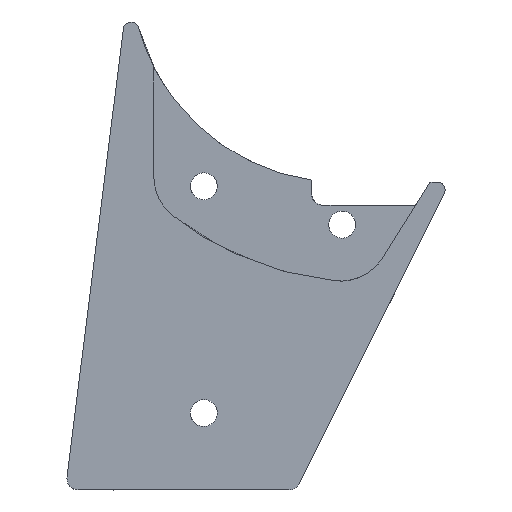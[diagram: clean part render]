
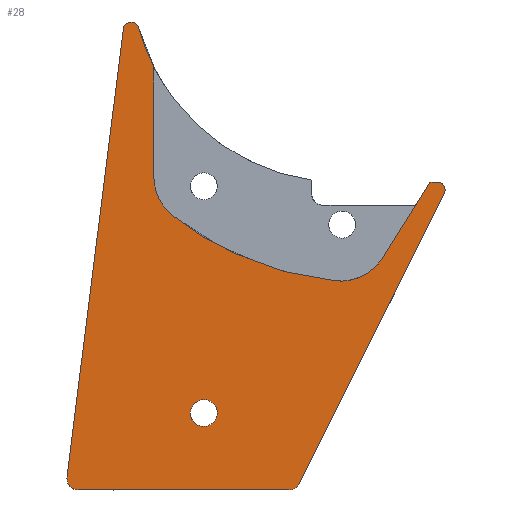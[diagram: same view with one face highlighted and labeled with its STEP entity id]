
A CAD part, top view. The second image highlights one B-rep face of the part: STEP entity #28.
In plain terms, the highlighted planar face has unit normal (0, 0, 1).
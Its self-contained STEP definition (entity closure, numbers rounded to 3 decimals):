
#15=FACE_BOUND('',#136,.T.);
#28=ADVANCED_FACE('',(#81,#15),#849,.T.);
#81=FACE_OUTER_BOUND('',#135,.T.);
#135=EDGE_LOOP('',(#213,#214,#215,#216,#217,#218,#219,#220,#221,#222,#223,
#224,#225,#226));
#136=EDGE_LOOP('',(#227,#228));
#213=ORIENTED_EDGE('',*,*,#544,.T.);
#214=ORIENTED_EDGE('',*,*,#527,.T.);
#215=ORIENTED_EDGE('',*,*,#534,.T.);
#216=ORIENTED_EDGE('',*,*,#484,.T.);
#217=ORIENTED_EDGE('',*,*,#530,.T.);
#218=ORIENTED_EDGE('',*,*,#501,.T.);
#219=ORIENTED_EDGE('',*,*,#485,.T.);
#220=ORIENTED_EDGE('',*,*,#496,.T.);
#221=ORIENTED_EDGE('',*,*,#486,.T.);
#222=ORIENTED_EDGE('',*,*,#494,.T.);
#223=ORIENTED_EDGE('',*,*,#508,.T.);
#224=ORIENTED_EDGE('',*,*,#482,.F.);
#225=ORIENTED_EDGE('',*,*,#543,.T.);
#226=ORIENTED_EDGE('',*,*,#487,.T.);
#227=ORIENTED_EDGE('',*,*,#599,.F.);
#228=ORIENTED_EDGE('',*,*,#471,.F.);
#471=EDGE_CURVE('',#750,#833,#700,.T.);
#482=EDGE_CURVE('',#758,#759,#615,.T.);
#484=EDGE_CURVE('',#764,#765,#617,.T.);
#485=EDGE_CURVE('',#767,#768,#706,.T.);
#486=EDGE_CURVE('',#769,#770,#618,.T.);
#487=EDGE_CURVE('',#772,#761,#619,.T.);
#494=EDGE_CURVE('',#770,#771,#708,.T.);
#496=EDGE_CURVE('',#768,#769,#710,.T.);
#501=EDGE_CURVE('',#766,#767,#713,.T.);
#508=EDGE_CURVE('',#771,#759,#715,.T.);
#527=EDGE_CURVE('',#762,#763,#649,.T.);
#530=EDGE_CURVE('',#765,#766,#652,.T.);
#534=EDGE_CURVE('',#763,#764,#717,.T.);
#543=EDGE_CURVE('',#758,#772,#718,.T.);
#544=EDGE_CURVE('',#761,#762,#719,.T.);
#599=EDGE_CURVE('',#833,#750,#740,.T.);
#615=B_SPLINE_CURVE_WITH_KNOTS('',2,(#1941,#1942,#1943),.UNSPECIFIED.,.F.,
 .F.,(3,3),(93.535,152.286),.UNSPECIFIED.);
#617=B_SPLINE_CURVE_WITH_KNOTS('',1,(#1946,#1947),.UNSPECIFIED.,.F.,.F.,
(2,2),(-215.446,-214.466),.UNSPECIFIED.);
#618=B_SPLINE_CURVE_WITH_KNOTS('',1,(#1951,#1952),.UNSPECIFIED.,.F.,.F.,
(2,2),(47.762,60.981),.UNSPECIFIED.);
#619=B_SPLINE_CURVE_WITH_KNOTS('',1,(#1953,#1954),.UNSPECIFIED.,.F.,.F.,
(2,2),(-290.085,-262.713),.UNSPECIFIED.);
#649=B_SPLINE_CURVE_WITH_KNOTS('',2,(#2112,#2113,#2114),.UNSPECIFIED.,.F.,
 .F.,(3,3),(-260.858,-218.682),.UNSPECIFIED.);
#652=B_SPLINE_CURVE_WITH_KNOTS('',2,(#2138,#2139,#2140),.UNSPECIFIED.,.F.,
 .F.,(3,3),(112.35,125.368),.UNSPECIFIED.);
#700=(
BOUNDED_CURVE()
B_SPLINE_CURVE(2,(#1888,#1889,#1890,#1891,#1892),.UNSPECIFIED.,.F.,.F.)
B_SPLINE_CURVE_WITH_KNOTS((3,2,3),(0.,2.749,5.498),
 .UNSPECIFIED.)
CURVE()
GEOMETRIC_REPRESENTATION_ITEM()
RATIONAL_B_SPLINE_CURVE((1.,0.707,1.,0.707,1.))
REPRESENTATION_ITEM('')
);
#706=(
BOUNDED_CURVE()
B_SPLINE_CURVE(2,(#1948,#1949,#1950),.UNSPECIFIED.,.F.,.F.)
B_SPLINE_CURVE_WITH_KNOTS((3,3),(28.091,35.698),
 .UNSPECIFIED.)
CURVE()
GEOMETRIC_REPRESENTATION_ITEM()
RATIONAL_B_SPLINE_CURVE((1.,0.96,1.))
REPRESENTATION_ITEM('')
);
#708=(
BOUNDED_CURVE()
B_SPLINE_CURVE(2,(#1970,#1971,#1972),.UNSPECIFIED.,.F.,.F.)
B_SPLINE_CURVE_WITH_KNOTS((3,3),(-173.213,-167.768),
 .UNSPECIFIED.)
CURVE()
GEOMETRIC_REPRESENTATION_ITEM()
RATIONAL_B_SPLINE_CURVE((1.,0.995,1.))
REPRESENTATION_ITEM('')
);
#710=(
BOUNDED_CURVE()
B_SPLINE_CURVE(2,(#1976,#1977,#1978),.UNSPECIFIED.,.F.,.F.)
B_SPLINE_CURVE_WITH_KNOTS((3,3),(35.698,47.762),
 .UNSPECIFIED.)
CURVE()
GEOMETRIC_REPRESENTATION_ITEM()
RATIONAL_B_SPLINE_CURVE((1.,0.899,1.))
REPRESENTATION_ITEM('')
);
#713=(
BOUNDED_CURVE()
B_SPLINE_CURVE(2,(#1989,#1990,#1991),.UNSPECIFIED.,.F.,.F.)
B_SPLINE_CURVE_WITH_KNOTS((3,3),(13.33,28.091),
 .UNSPECIFIED.)
CURVE()
GEOMETRIC_REPRESENTATION_ITEM()
RATIONAL_B_SPLINE_CURVE((1.,0.851,1.))
REPRESENTATION_ITEM('')
);
#715=(
BOUNDED_CURVE()
B_SPLINE_CURVE(2,(#2019,#2020,#2021,#2022,#2023),.UNSPECIFIED.,.F.,.F.)
B_SPLINE_CURVE_WITH_KNOTS((3,2,3),(0.,1.372,2.745),
 .UNSPECIFIED.)
CURVE()
GEOMETRIC_REPRESENTATION_ITEM()
RATIONAL_B_SPLINE_CURVE((1.,0.774,1.,0.774,1.))
REPRESENTATION_ITEM('')
);
#717=(
BOUNDED_CURVE()
B_SPLINE_CURVE(2,(#2148,#2149,#2150),.UNSPECIFIED.,.F.,.F.)
B_SPLINE_CURVE_WITH_KNOTS((3,3),(-2.034,0.),.UNSPECIFIED.)
CURVE()
GEOMETRIC_REPRESENTATION_ITEM()
RATIONAL_B_SPLINE_CURVE((1.,0.526,1.))
REPRESENTATION_ITEM('')
);
#718=(
BOUNDED_CURVE()
B_SPLINE_CURVE(2,(#2192,#2193,#2194),.UNSPECIFIED.,.F.,.F.)
B_SPLINE_CURVE_WITH_KNOTS((3,3),(-2.544,0.),.UNSPECIFIED.)
CURVE()
GEOMETRIC_REPRESENTATION_ITEM()
RATIONAL_B_SPLINE_CURVE((1.,0.661,1.))
REPRESENTATION_ITEM('')
);
#719=(
BOUNDED_CURVE()
B_SPLINE_CURVE(2,(#2195,#2196,#2197),.UNSPECIFIED.,.F.,.F.)
B_SPLINE_CURVE_WITH_KNOTS((3,3),(0.,1.661),.UNSPECIFIED.)
CURVE()
GEOMETRIC_REPRESENTATION_ITEM()
RATIONAL_B_SPLINE_CURVE((1.,0.851,1.))
REPRESENTATION_ITEM('')
);
#740=(
BOUNDED_CURVE()
B_SPLINE_CURVE(2,(#2481,#2482,#2483,#2484,#2485),.UNSPECIFIED.,.F.,.F.)
B_SPLINE_CURVE_WITH_KNOTS((3,2,3),(5.498,8.247,10.996),
 .UNSPECIFIED.)
CURVE()
GEOMETRIC_REPRESENTATION_ITEM()
RATIONAL_B_SPLINE_CURVE((1.,0.707,1.,0.707,1.))
REPRESENTATION_ITEM('')
);
#750=VERTEX_POINT('',#1791);
#758=VERTEX_POINT('',#1799);
#759=VERTEX_POINT('',#1800);
#761=VERTEX_POINT('',#1802);
#762=VERTEX_POINT('',#1803);
#763=VERTEX_POINT('',#1804);
#764=VERTEX_POINT('',#1805);
#765=VERTEX_POINT('',#1806);
#766=VERTEX_POINT('',#1807);
#767=VERTEX_POINT('',#1808);
#768=VERTEX_POINT('',#1809);
#769=VERTEX_POINT('',#1810);
#770=VERTEX_POINT('',#1811);
#771=VERTEX_POINT('',#1812);
#772=VERTEX_POINT('',#1813);
#833=VERTEX_POINT('',#1874);
#849=PLANE('',#982);
#982=AXIS2_PLACEMENT_3D('',#1068,#1002,$);
#1002=DIRECTION('',(0.,0.,1.));
#1068=CARTESIAN_POINT('',(-90.25,8.437,0.));
#1791=CARTESIAN_POINT('',(-64.25,-57.5,0.));
#1799=CARTESIAN_POINT('',(-83.788,-65.813,0.));
#1800=CARTESIAN_POINT('',(-76.447,-7.522,0.));
#1802=CARTESIAN_POINT('',(-54.927,-67.5,0.));
#1803=CARTESIAN_POINT('',(-53.585,-66.671,0.));
#1804=CARTESIAN_POINT('',(-34.724,-28.947,0.));
#1805=CARTESIAN_POINT('',(-35.618,-27.5,0.));
#1806=CARTESIAN_POINT('',(-36.598,-27.5,0.));
#1807=CARTESIAN_POINT('',(-42.717,-37.291,0.));
#1808=CARTESIAN_POINT('',(-48.847,-40.317,0.));
#1809=CARTESIAN_POINT('',(-70.015,-31.851,0.));
#1810=CARTESIAN_POINT('',(-72.5,-26.739,0.));
#1811=CARTESIAN_POINT('',(-72.5,-12.49,0.));
#1812=CARTESIAN_POINT('',(-74.492,-7.378,0.));
#1813=CARTESIAN_POINT('',(-82.299,-67.5,0.));
#1874=CARTESIAN_POINT('',(-67.75,-57.5,0.));
#1888=CARTESIAN_POINT('',(-64.25,-57.5,0.));
#1889=CARTESIAN_POINT('',(-64.25,-55.75,0.));
#1890=CARTESIAN_POINT('',(-66.,-55.75,0.));
#1891=CARTESIAN_POINT('',(-67.75,-55.75,0.));
#1892=CARTESIAN_POINT('',(-67.75,-57.5,0.));
#1941=CARTESIAN_POINT('',(-83.788,-65.813,0.));
#1942=CARTESIAN_POINT('',(-80.117,-36.667,0.));
#1943=CARTESIAN_POINT('',(-76.447,-7.522,0.));
#1946=CARTESIAN_POINT('',(-35.618,-27.5,0.));
#1947=CARTESIAN_POINT('',(-36.598,-27.5,0.));
#1948=CARTESIAN_POINT('',(-48.847,-40.317,0.));
#1949=CARTESIAN_POINT('',(-60.672,-39.189,0.));
#1950=CARTESIAN_POINT('',(-70.015,-31.851,0.));
#1951=CARTESIAN_POINT('',(-72.5,-26.739,0.));
#1952=CARTESIAN_POINT('',(-72.5,-12.49,0.));
#1953=CARTESIAN_POINT('',(-82.299,-67.5,0.));
#1954=CARTESIAN_POINT('',(-54.927,-67.5,0.));
#1970=CARTESIAN_POINT('',(-72.5,-12.49,0.));
#1971=CARTESIAN_POINT('',(-73.752,-10.034,0.));
#1972=CARTESIAN_POINT('',(-74.492,-7.378,0.));
#1976=CARTESIAN_POINT('',(-70.015,-31.851,0.));
#1977=CARTESIAN_POINT('',(-72.5,-29.9,0.));
#1978=CARTESIAN_POINT('',(-72.5,-26.739,0.));
#1989=CARTESIAN_POINT('',(-42.717,-37.291,0.));
#1990=CARTESIAN_POINT('',(-44.847,-40.699,0.));
#1991=CARTESIAN_POINT('',(-48.847,-40.317,0.));
#2019=CARTESIAN_POINT('',(-74.492,-7.378,0.));
#2020=CARTESIAN_POINT('',(-74.711,-6.589,0.));
#2021=CARTESIAN_POINT('',(-75.528,-6.649,0.));
#2022=CARTESIAN_POINT('',(-76.345,-6.709,0.));
#2023=CARTESIAN_POINT('',(-76.447,-7.522,0.));
#2112=CARTESIAN_POINT('',(-53.585,-66.671,0.));
#2113=CARTESIAN_POINT('',(-44.155,-47.809,0.));
#2114=CARTESIAN_POINT('',(-34.724,-28.947,0.));
#2138=CARTESIAN_POINT('',(-36.598,-27.5,0.));
#2139=CARTESIAN_POINT('',(-39.658,-32.396,0.));
#2140=CARTESIAN_POINT('',(-42.717,-37.291,0.));
#2148=CARTESIAN_POINT('',(-34.724,-28.947,0.));
#2149=CARTESIAN_POINT('',(-34.,-27.5,0.));
#2150=CARTESIAN_POINT('',(-35.618,-27.5,0.));
#2192=CARTESIAN_POINT('',(-83.788,-65.813,0.));
#2193=CARTESIAN_POINT('',(-84.,-67.5,0.));
#2194=CARTESIAN_POINT('',(-82.299,-67.5,0.));
#2195=CARTESIAN_POINT('',(-54.927,-67.5,0.));
#2196=CARTESIAN_POINT('',(-54.,-67.5,0.));
#2197=CARTESIAN_POINT('',(-53.585,-66.671,0.));
#2481=CARTESIAN_POINT('',(-67.75,-57.5,0.));
#2482=CARTESIAN_POINT('',(-67.75,-59.25,0.));
#2483=CARTESIAN_POINT('',(-66.,-59.25,0.));
#2484=CARTESIAN_POINT('',(-64.25,-59.25,0.));
#2485=CARTESIAN_POINT('',(-64.25,-57.5,0.));
